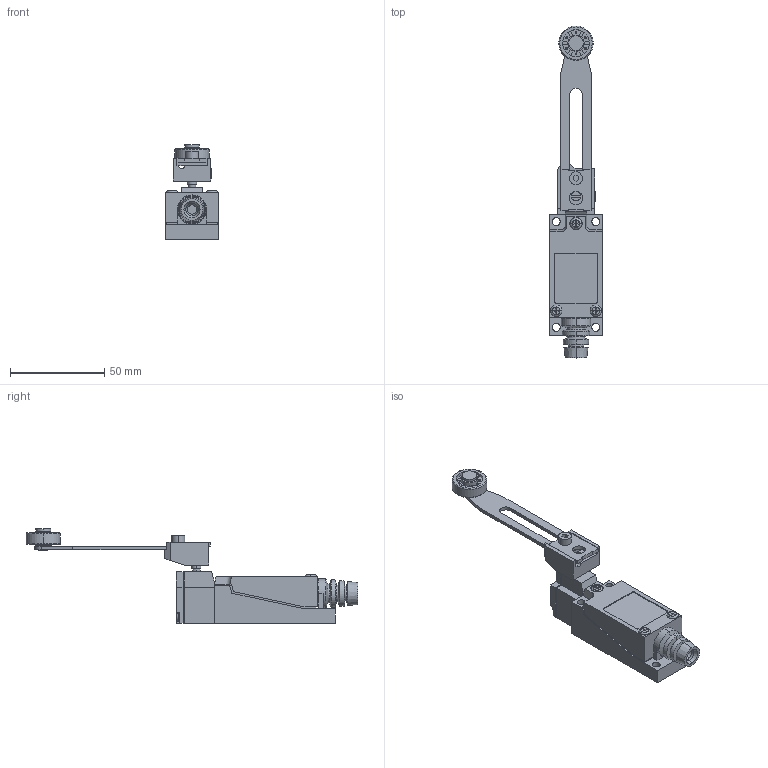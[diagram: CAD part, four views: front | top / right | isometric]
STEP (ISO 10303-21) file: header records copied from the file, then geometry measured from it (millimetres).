
FILE_DESCRIPTION (( 'STEP AP203' ), '1' );
FILE_NAME ('FM8108.STEP', '2018-06-12T16:26:36', ( '' ), ( '' ), 'SwSTEP 2.0', 'SolidWorks 2012', '' );
FILE_SCHEMA (( 'CONFIG_CONTROL_DESIGN' ));
Length unit declared in the file: millimetre
Products named in the file (1): FM8108
Bounding box: 28 x 175.84 x 50.3 mm (x, y, z)
Volume: 56937.1 mm3; surface area: 18906.7 mm2
Topology: 1 solids, 1 shells, 431 faces, 1146 edges, 746 vertices
Faces by surface type: plane 294, cylinder 93, cone 24, torus 16, bspline 4
Entity records: 13759 total; most frequent: CARTESIAN_POINT 2752, ORIENTED_EDGE 2292, DIRECTION 2244, EDGE_CURVE 1146, VECTOR 796, LINE 796, VERTEX_POINT 746, AXIS2_PLACEMENT_3D 724
